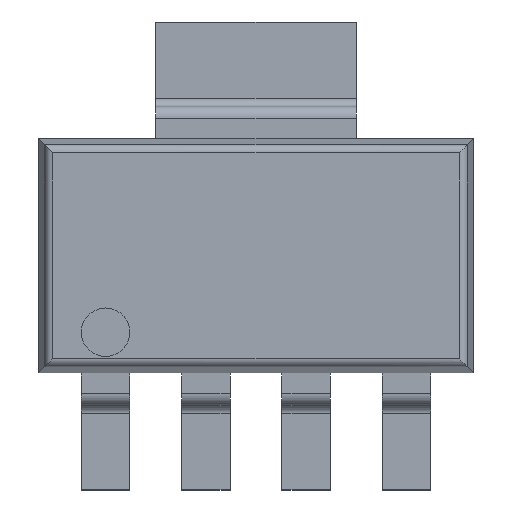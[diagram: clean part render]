
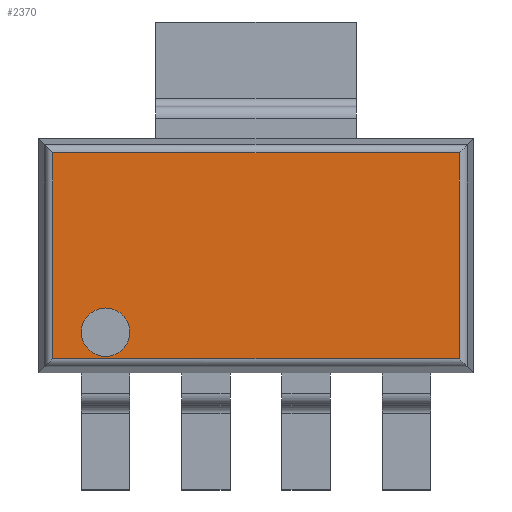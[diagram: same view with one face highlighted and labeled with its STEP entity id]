
A CAD part, top view. The second image highlights one B-rep face of the part: STEP entity #2370.
In plain terms, the highlighted planar face has unit normal (0, 0, 1).
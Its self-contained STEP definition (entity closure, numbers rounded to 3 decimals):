
#2311 = CARTESIAN_POINT ( 'NONE',  ( -2.25, -1.505, 1.8 ) ) ;
#2312 = VERTEX_POINT ( 'NONE', #2311 ) ;
#2313 = CARTESIAN_POINT ( 'NONE',  ( -2.25, -0.78, 1.8 ) ) ;
#2314 = VERTEX_POINT ( 'NONE', #2313 ) ;
#2315 = CARTESIAN_POINT ( 'NONE',  ( -2.25, -1.143, 1.8 ) ) ;
#2316 = DIRECTION ( 'NONE',  ( 0., 0., 1. ) ) ;
#2317 = DIRECTION ( 'NONE',  ( 0., -1., 0. ) ) ;
#2318 = AXIS2_PLACEMENT_3D ( 'NONE', #2315, #2316, #2317 ) ;
#2319 = CIRCLE ( 'NONE', #2318, 0.363) ;
#2320 = EDGE_CURVE ( 'NONE', #2312, #2314, #2319, .T. ) ;
#2321 = ORIENTED_EDGE ( 'NONE', *, *, #2320, .F. ) ;
#2322 = CARTESIAN_POINT ( 'NONE',  ( -2.25, -1.143, 1.8 ) ) ;
#2323 = DIRECTION ( 'NONE',  ( 0., 0., 1. ) ) ;
#2324 = DIRECTION ( 'NONE',  ( 0., -1., 0. ) ) ;
#2325 = AXIS2_PLACEMENT_3D ( 'NONE', #2322, #2323, #2324 ) ;
#2326 = CIRCLE ( 'NONE', #2325, 0.363) ;
#2327 = EDGE_CURVE ( 'NONE', #2314, #2312, #2326, .T. ) ;
#2328 = ORIENTED_EDGE ( 'NONE', *, *, #2327, .F. ) ;
#2329 = EDGE_LOOP ( 'NONE', ( #2321, #2328 ) ) ;
#2330 = FACE_BOUND ( 'NONE', #2329, .T. ) ;
#2331 = CARTESIAN_POINT ( 'NONE',  ( 3.039, -1.539, 1.8 ) ) ;
#2332 = VERTEX_POINT ( 'NONE', #2331 ) ;
#2333 = CARTESIAN_POINT ( 'NONE',  ( 3.039, 1.539, 1.8 ) ) ;
#2334 = VERTEX_POINT ( 'NONE', #2333 ) ;
#2335 = CARTESIAN_POINT ( 'NONE',  ( 3.039, 1.642, 1.8 ) ) ;
#2336 = DIRECTION ( 'NONE',  ( 0., 1., 0. ) ) ;
#2337 = VECTOR ( 'NONE', #2336, 1000. ) ;
#2338 = LINE ( 'NONE', #2335, #2337 ) ;
#2339 = EDGE_CURVE ( 'NONE', #2332, #2334, #2338, .T. ) ;
#2340 = ORIENTED_EDGE ( 'NONE', *, *, #2339, .T. ) ;
#2341 = CARTESIAN_POINT ( 'NONE',  ( -3.039, 1.539, 1.8 ) ) ;
#2342 = VERTEX_POINT ( 'NONE', #2341 ) ;
#2343 = CARTESIAN_POINT ( 'NONE',  ( -3.142, 1.539, 1.8 ) ) ;
#2344 = DIRECTION ( 'NONE',  ( -1., 0., 0. ) ) ;
#2345 = VECTOR ( 'NONE', #2344, 1000. ) ;
#2346 = LINE ( 'NONE', #2343, #2345 ) ;
#2347 = EDGE_CURVE ( 'NONE', #2334, #2342, #2346, .T. ) ;
#2348 = ORIENTED_EDGE ( 'NONE', *, *, #2347, .T. ) ;
#2349 = CARTESIAN_POINT ( 'NONE',  ( -3.039, -1.539, 1.8 ) ) ;
#2350 = VERTEX_POINT ( 'NONE', #2349 ) ;
#2351 = CARTESIAN_POINT ( 'NONE',  ( -3.039, -1.642, 1.8 ) ) ;
#2352 = DIRECTION ( 'NONE',  ( 0., -1., 0. ) ) ;
#2353 = VECTOR ( 'NONE', #2352, 1000. ) ;
#2354 = LINE ( 'NONE', #2351, #2353 ) ;
#2355 = EDGE_CURVE ( 'NONE', #2342, #2350, #2354, .T. ) ;
#2356 = ORIENTED_EDGE ( 'NONE', *, *, #2355, .T. ) ;
#2357 = CARTESIAN_POINT ( 'NONE',  ( 3.142, -1.539, 1.8 ) ) ;
#2358 = DIRECTION ( 'NONE',  ( 1., 0., 0. ) ) ;
#2359 = VECTOR ( 'NONE', #2358, 1000. ) ;
#2360 = LINE ( 'NONE', #2357, #2359 ) ;
#2361 = EDGE_CURVE ( 'NONE', #2350, #2332, #2360, .T. ) ;
#2362 = ORIENTED_EDGE ( 'NONE', *, *, #2361, .T. ) ;
#2363 = EDGE_LOOP ( 'NONE', ( #2340, #2348, #2356, #2362 ) ) ;
#2364 = FACE_OUTER_BOUND ( 'NONE', #2363, .T. ) ;
#2365 = CARTESIAN_POINT ( 'NONE',  ( 1.475, -0.771, 1.8 ) ) ;
#2366 = DIRECTION ( 'NONE',  ( 0., 0., -1. ) ) ;
#2367 = DIRECTION ( 'NONE',  ( 0., 1., 0. ) ) ;
#2368 = AXIS2_PLACEMENT_3D ( 'NONE', #2365, #2366, #2367 ) ;
#2369 = PLANE ( 'NONE', #2368 ) ;
#2370 = ADVANCED_FACE ( 'NONE', ( #2330, #2364 ), #2369, .F. ) ;
